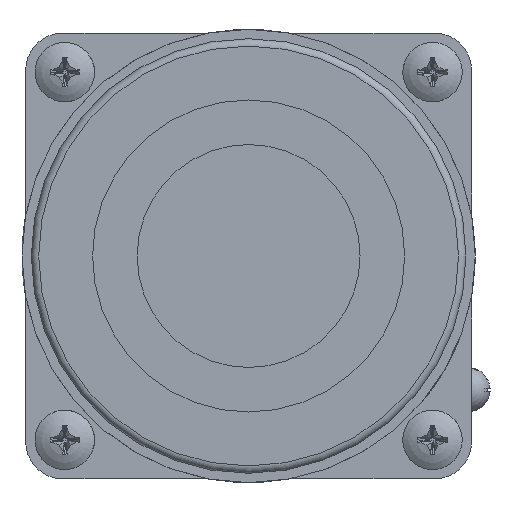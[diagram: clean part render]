
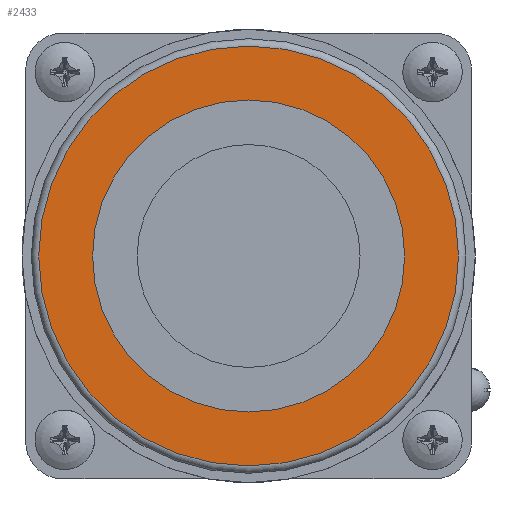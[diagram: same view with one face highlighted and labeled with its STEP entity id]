
A CAD part, left-side view. The second image highlights one B-rep face of the part: STEP entity #2433.
In plain terms, the highlighted planar face has unit normal (-1, 0, 0).
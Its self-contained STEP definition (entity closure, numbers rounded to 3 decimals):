
#2136=PLANE('',#7133);
#2433=ADVANCED_FACE('',(#2808,#2809),#2136,.T.);
#2808=FACE_BOUND('',#3229,.T.);
#2809=FACE_BOUND('',#3230,.T.);
#3229=EDGE_LOOP('',(#4389));
#3230=EDGE_LOOP('',(#4390));
#4389=ORIENTED_EDGE('',*,*,#5924,.T.);
#4390=ORIENTED_EDGE('',*,*,#5925,.T.);
#5241=VERTEX_POINT('',#10639);
#5242=VERTEX_POINT('',#10641);
#5924=EDGE_CURVE('',#5241,#5241,#6419,.T.);
#5925=EDGE_CURVE('',#5242,#5242,#6420,.T.);
#6419=CIRCLE('',#7131,28.25);
#6420=CIRCLE('',#7132,21.);
#7131=AXIS2_PLACEMENT_3D('',#10638,#8233,#8234);
#7132=AXIS2_PLACEMENT_3D('',#10640,#8235,#8236);
#7133=AXIS2_PLACEMENT_3D('',#10642,#8237,#8238);
#8233=DIRECTION('',(-1.,0.,0.));
#8234=DIRECTION('',(0.,-1.,0.));
#8235=DIRECTION('',(1.,0.,0.));
#8236=DIRECTION('',(0.,1.,0.));
#8237=DIRECTION('',(-1.,0.,0.));
#8238=DIRECTION('',(0.,-1.,0.));
#10638=CARTESIAN_POINT('',(-75.,0.,0.));
#10639=CARTESIAN_POINT('',(-75.,-28.25,0.));
#10640=CARTESIAN_POINT('',(-75.,0.,0.));
#10641=CARTESIAN_POINT('',(-75.,21.,0.));
#10642=CARTESIAN_POINT('',(-75.,0.,0.));
